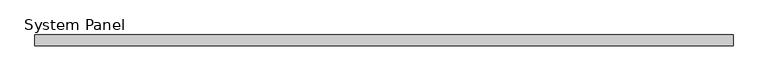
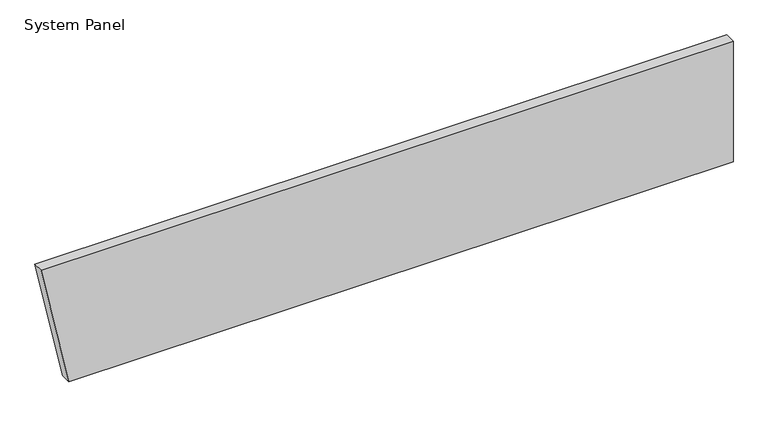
"""IFC4 building model written with IfcOpenShell, lengths in millimetres: plate geometry, System Panel : Equitilt_FlameGuard_100mm_Plain_Surfmist."""

from ifc_helpers import new_model, si_unit, frame, origin, place, context, project, spatial, polyline, outline, extrude, source, transform, mapped, element, save


def system_panel_25976524(model_context):
    return source(origin(), model_context, "Body", "SweptSolid", [
        extrude(outline(polyline([(0.0, -2995.0), (0.0, 3255.8716619), (1200.0, 3255.8716619), (1200.0, -3255.8716619), (0.0, -2995.0)])), frame((0.0, -100.0, 0.0), z_axis=(0.0, 1.0, 0.0), x_axis=(0.0, 0.0, 1.0)), (0.0, 0.0, 1.0), 100.0),
    ])


if __name__ == "__main__":
    model = new_model("IFC4")
    model_context = context("Model", 3, world=origin())
    ifc_project = project(units=[si_unit("LENGTHUNIT", "METRE", prefix="MILLI")], contexts=[model_context])
    site = spatial("IfcSite", under=ifc_project)
    building = spatial("IfcBuilding", under=site)
    placement = place(None, origin())
    system_panel_shape = system_panel_25976524(model_context)
    element("IfcPlate", 1, ObjectType="System Panel : Equitilt_FlameGuard_100mm_Plain_Surfmist", at=placement, inside=building, context=model_context, shape_type="MappedRepresentation", body=[
        mapped(system_panel_shape, transform((0.0, 0.0, 0.0), x_axis=(1.0, 0.0, 0.0), y_axis=(0.0, 1.0, 0.0), z_axis=(0.0, 0.0, 1.0))),
    ])
    save(model, "model.ifc")
